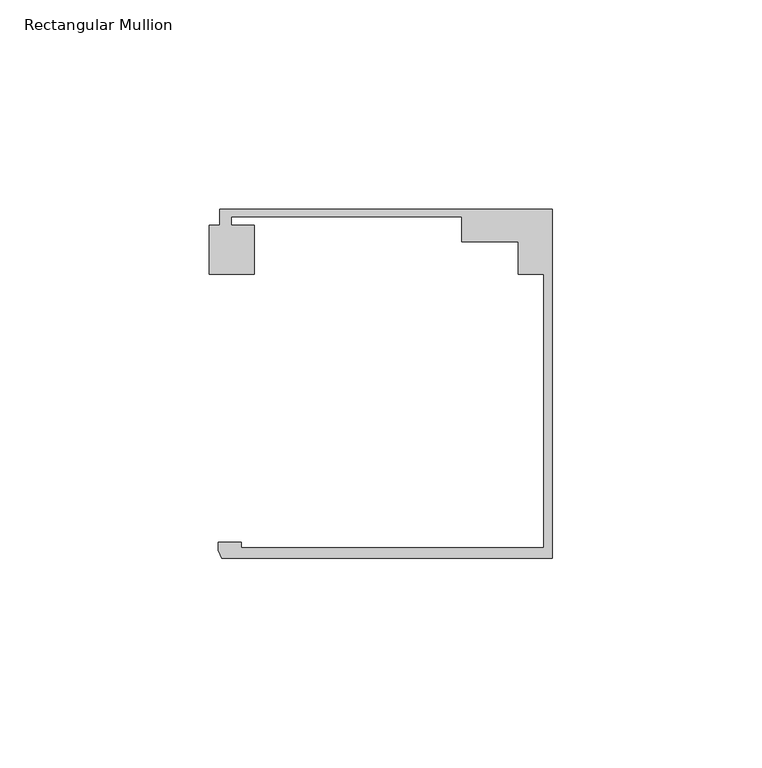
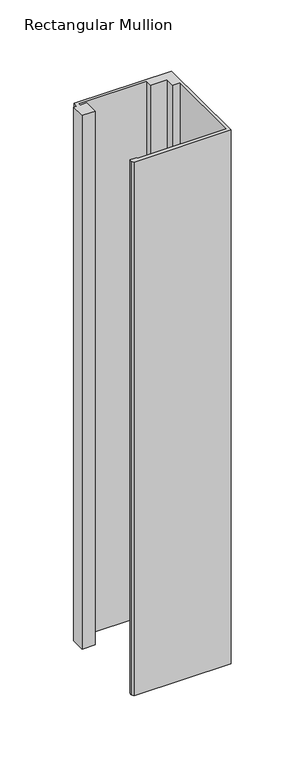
"""IFC4 building model written with IfcOpenShell, lengths in millimetres: member geometry, Rectangular Mullion : Danpal_Airpt_End-Mullion_B2."""

from ifc_helpers import new_model, si_unit, frame, origin, place, context, project, spatial, polyline, outline, extrude, source, transform, mapped, element, save


def rectangular_mullion_cb80de62(model_context):
    return source(origin(), model_context, "Body", "SweptSolid", [
        extrude(outline(polyline([(-2.0000001, -74.9940824), (-2.0000001, -9.7188964), (-8.1, -9.7188964), (-8.1, -1.8818054), (-21.5478166, -1.8818054), (-21.5478166, 4.0051512), (-76.6478166, 4.0051512), (-76.6478166, 2.0051513), (-71.1433532, 2.0051513), (-71.1433532, -9.6875514), (-81.8592324, -9.6875514), (-81.8592324, 2.0051513), (-79.3474874, 2.0051513), (-79.3474874, 5.8051514), (0.0, 5.8051514), (0.0, -77.4940825), (-78.8515009, -77.4940825), (-79.7784606, -75.5472671), (-79.7784606, -73.6940824), (-74.2474668, -73.6940824), (-74.2474668, -74.9940824), (-2.0000001, -74.9940824)])), frame((0.0, 0.0, -458.1991816), z_axis=(0.0, 0.0, 1.0), x_axis=(1.0, 0.0, 0.0)), (0.0, 0.0, 1.0), 458.1991816),
    ])


if __name__ == "__main__":
    model = new_model("IFC4")
    model_context = context("Model", 3, world=origin())
    ifc_project = project(units=[si_unit("LENGTHUNIT", "METRE", prefix="MILLI")], contexts=[model_context])
    site = spatial("IfcSite", under=ifc_project)
    building = spatial("IfcBuilding", under=site)
    placement = place(None, origin())
    rectangular_mullion_shape = rectangular_mullion_cb80de62(model_context)
    element("IfcMember", 1, ObjectType="Rectangular Mullion : Danpal_Airpt_End-Mullion_B2", at=placement, inside=building, context=model_context, shape_type="MappedRepresentation", body=[
        mapped(rectangular_mullion_shape, transform((0.0, 0.0, 0.0), x_axis=(1.0, 0.0, 0.0), y_axis=(0.0, 1.0, 0.0), z_axis=(0.0, 0.0, 1.0))),
    ])
    save(model, "model.ifc")
